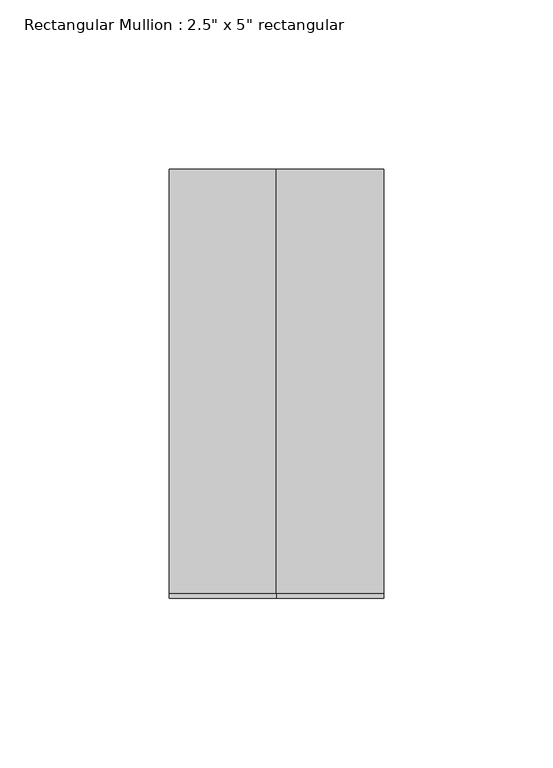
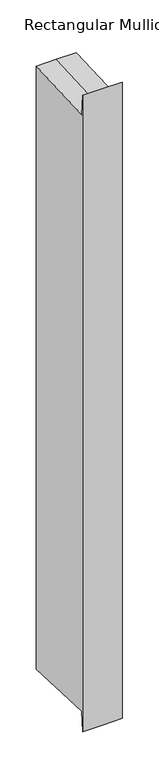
"""IFC4 building model written with IfcOpenShell, lengths in millimetres: member geometry."""

from ifc_helpers import new_model, si_unit, origin, place, context, project, spatial, faceted_brep, source, transform, mapped, element, save


def member_297e8c20(model_context):
    return source(origin(), model_context, "Body", "Brep", [
        faceted_brep([(-31.75, 63.5, 2.7618987), (0.0, 63.5, 2.7618987), (31.75, 63.5, 2.7618987), (31.75, 63.5, -1010.5797492), (0.0, 63.5, -1010.5797492), (-31.75, 63.5, -1010.5797492), (-31.75, -63.5, 30.3543811), (-31.75, -62.043738, -2.7592318), (-31.75, -62.043738, -1005.0586187), (-31.75, -63.5, -1038.1722316), (31.75, -63.5, 30.3543811), (0.0, -63.5, 30.3543811), (0.0, -63.5, -1038.1722316), (31.75, -63.5, -1038.1722316), (31.75, -62.043738, -2.7592318), (31.75, -62.043738, -1005.0586187), (0.0, -62.043738, -2.7592318), (0.0, -62.043738, -1005.0586187)], [[[0, 1, 2, 3, 4, 5]], [[6, 7, 0, 5, 8, 9]], [[10, 11, 6, 9, 12, 13]], [[2, 14, 10, 13, 15, 3]], [[2, 1, 16, 14]], [[1, 0, 7, 16]], [[7, 6, 11, 16]], [[11, 10, 14, 16]], [[3, 15, 17, 4]], [[15, 13, 12, 17]], [[12, 9, 8, 17]], [[8, 5, 4, 17]]]),
    ])


if __name__ == "__main__":
    model = new_model("IFC4")
    model_context = context("Model", 3, world=origin())
    ifc_project = project(units=[si_unit("LENGTHUNIT", "METRE", prefix="MILLI")], contexts=[model_context])
    site = spatial("IfcSite", under=ifc_project)
    building = spatial("IfcBuilding", under=site)
    placement = place(None, origin())
    member_shape = member_297e8c20(model_context)
    element("IfcMember", 1, ObjectType="Rectangular Mullion : 2.5\" x 5\" rectangular", at=placement, inside=building, context=model_context, shape_type="MappedRepresentation", body=[
        mapped(member_shape, transform((0.0, 0.0, 0.0), x_axis=(1.0, 0.0, 0.0), y_axis=(0.0, 1.0, 0.0), z_axis=(0.0, 0.0, 1.0))),
    ])
    save(model, "model.ifc")
